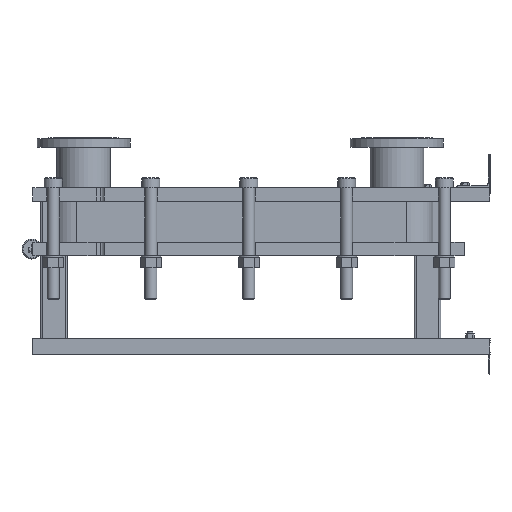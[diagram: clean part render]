
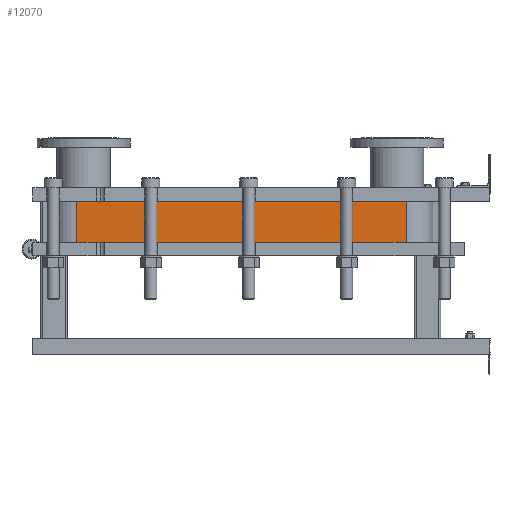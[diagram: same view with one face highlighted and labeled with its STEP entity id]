
A CAD part, left-side view. The second image highlights one B-rep face of the part: STEP entity #12070.
In plain terms, the highlighted planar face has unit normal (-1, 0, 0).
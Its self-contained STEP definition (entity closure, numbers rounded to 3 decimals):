
#1064=LINE('',#21140,#2164);
#1065=LINE('',#21144,#2165);
#1066=LINE('',#21146,#2166);
#1067=LINE('',#21147,#2167);
#2164=VECTOR('',#15790,10.);
#2165=VECTOR('',#15795,10.);
#2166=VECTOR('',#15796,10.);
#2167=VECTOR('',#15797,10.);
#3304=FACE_OUTER_BOUND('',#4091,.T.);
#4091=EDGE_LOOP('',(#9793,#9794,#9795,#9796));
#5677=VERTEX_POINT('',#21137);
#5678=VERTEX_POINT('',#21139);
#5679=VERTEX_POINT('',#21143);
#5680=VERTEX_POINT('',#21145);
#7118=EDGE_CURVE('',#5678,#5677,#1064,.T.);
#7120=EDGE_CURVE('',#5677,#5679,#1065,.T.);
#7121=EDGE_CURVE('',#5680,#5679,#1066,.T.);
#7122=EDGE_CURVE('',#5680,#5678,#1067,.T.);
#9793=ORIENTED_EDGE('',*,*,#7120,.T.);
#9794=ORIENTED_EDGE('',*,*,#7121,.F.);
#9795=ORIENTED_EDGE('',*,*,#7122,.T.);
#9796=ORIENTED_EDGE('',*,*,#7118,.T.);
#11441=PLANE('',#13191);
#12070=ADVANCED_FACE('',(#3304),#11441,.T.);
#13191=AXIS2_PLACEMENT_3D('',#21142,#15793,#15794);
#15790=DIRECTION('',(0.,0.,-1.));
#15793=DIRECTION('center_axis',(-1.,0.,0.));
#15794=DIRECTION('ref_axis',(0.,1.,0.));
#15795=DIRECTION('',(0.,-1.,0.));
#15796=DIRECTION('',(0.,0.,-1.));
#15797=DIRECTION('',(0.,1.,0.));
#21137=CARTESIAN_POINT('',(-248.152,1243.818,-124.2));
#21139=CARTESIAN_POINT('',(-248.152,1243.818,0.));
#21140=CARTESIAN_POINT('',(-248.152,1243.818,0.));
#21142=CARTESIAN_POINT('Origin',(-248.152,251.818,0.));
#21143=CARTESIAN_POINT('',(-248.152,251.818,-124.2));
#21144=CARTESIAN_POINT('',(-248.152,499.818,-124.2));
#21145=CARTESIAN_POINT('',(-248.152,251.818,0.));
#21146=CARTESIAN_POINT('',(-248.152,251.818,0.));
#21147=CARTESIAN_POINT('',(-248.152,251.818,0.));
